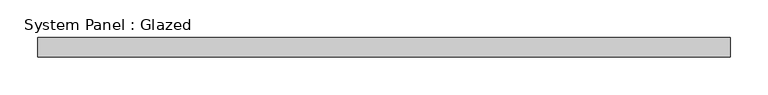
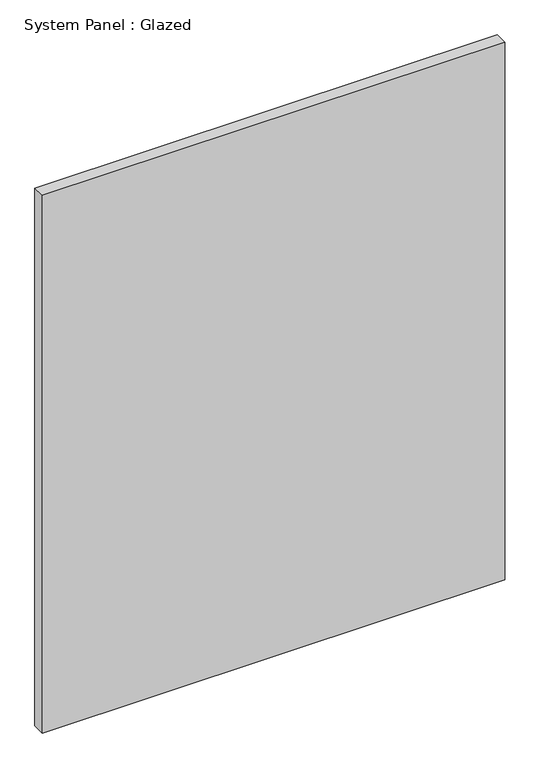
"""IFC4 building model written with IfcOpenShell, lengths in millimetres: plate geometry, System Panel : Glazed."""

from ifc_helpers import new_model, si_unit, origin, origin_with_axes, place, context, project, spatial, polyline, outline, extrude, source, transform, mapped, element, save


def system_panel_glazed_2e5f6ce9(model_context):
    return source(origin(), model_context, "Body", "SweptSolid", [
        extrude(outline(polyline([(457.2, -44.45), (-457.2, -44.45), (-457.2, -19.05), (457.2, -19.05), (457.2, -44.45)])), origin_with_axes(), (0.0, 0.0, 1.0), 1123.95),
    ])


if __name__ == "__main__":
    model = new_model("IFC4")
    model_context = context("Model", 3, world=origin())
    ifc_project = project(units=[si_unit("LENGTHUNIT", "METRE", prefix="MILLI")], contexts=[model_context])
    site = spatial("IfcSite", under=ifc_project)
    building = spatial("IfcBuilding", under=site)
    placement = place(None, origin())
    system_panel_glazed_shape = system_panel_glazed_2e5f6ce9(model_context)
    element("IfcPlate", 1, ObjectType="System Panel : Glazed", at=placement, inside=building, context=model_context, shape_type="MappedRepresentation", body=[
        mapped(system_panel_glazed_shape, transform((0.0, 0.0, 0.0), x_axis=(1.0, 0.0, 0.0), y_axis=(0.0, 1.0, 0.0), z_axis=(0.0, 0.0, 1.0))),
    ])
    save(model, "model.ifc")
